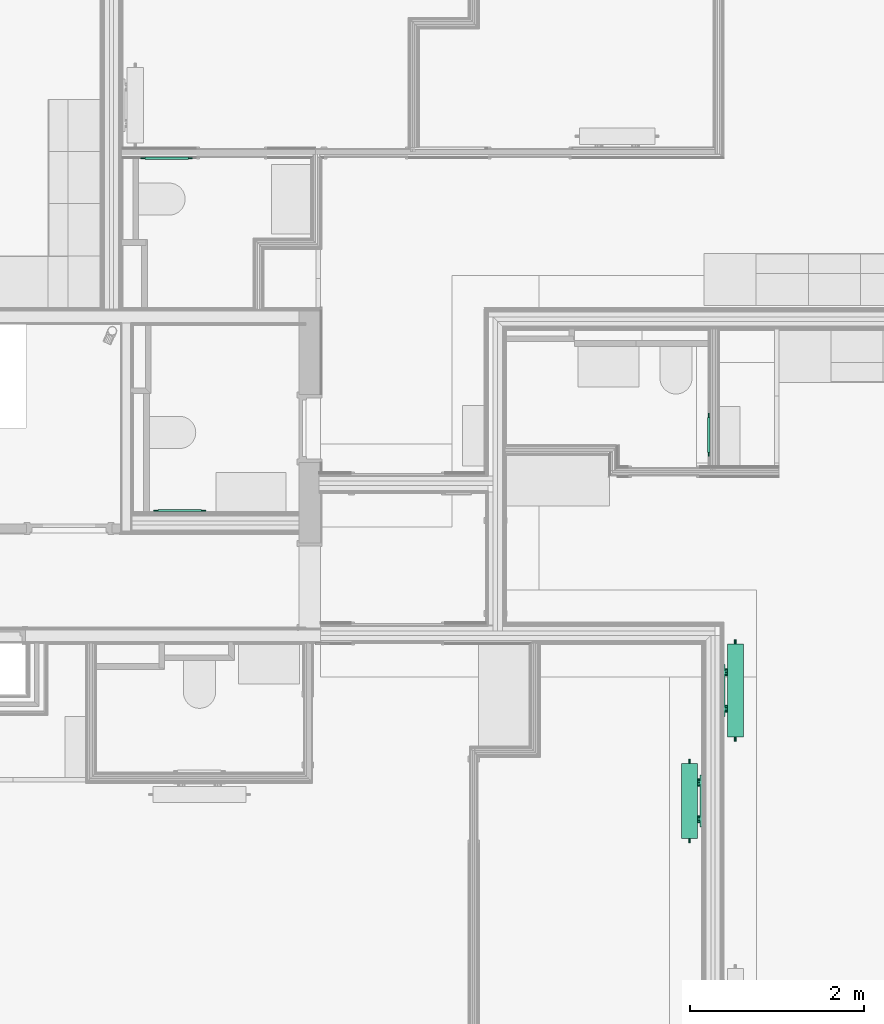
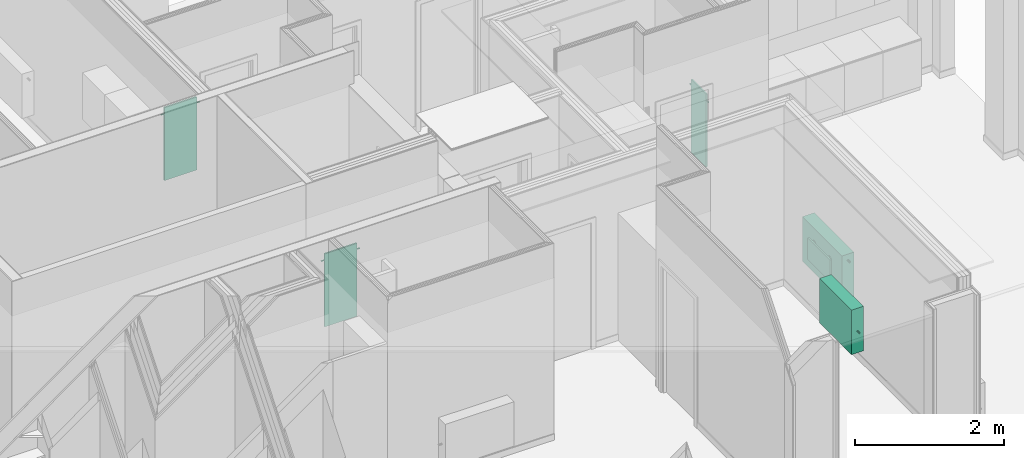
# One storey, part 60 of 65: 5 flow terminals.
"""IFC2X3 building model written with IfcOpenShell, lengths in metres."""

from ifc_helpers import new_model, entity, si_unit, converted_unit, derived_unit, money_unit, direction, frame, origin_with_axes, place, context, subcontext, project, spatial, open_shell, surface_model, material, type_object, element, save


model = new_model("IFC2X3")

# Units and contexts
model_context = context("Model", 3, precision=1e-05, world=origin_with_axes(), true_north=direction((0.0, 1.0)))
body_context = subcontext(model_context, "Body", "Model", "MODEL_VIEW", scale=1.0)
ifc_project = project(units=[si_unit("LENGTHUNIT", "METRE"), si_unit("AREAUNIT", "SQUARE_METRE"), si_unit("VOLUMEUNIT", "CUBIC_METRE"), si_unit("ABSORBEDDOSEUNIT", "GRAY"), si_unit("AMOUNTOFSUBSTANCEUNIT", "MOLE"), si_unit("DOSEEQUIVALENTUNIT", "SIEVERT"), si_unit("ELECTRICCAPACITANCEUNIT", "FARAD"), si_unit("ELECTRICCHARGEUNIT", "COULOMB"), si_unit("ELECTRICCONDUCTANCEUNIT", "SIEMENS"), si_unit("ELECTRICCURRENTUNIT", "AMPERE"), si_unit("ELECTRICRESISTANCEUNIT", "OHM"), si_unit("ELECTRICVOLTAGEUNIT", "VOLT"), si_unit("ENERGYUNIT", "JOULE"), si_unit("FORCEUNIT", "NEWTON"), si_unit("FREQUENCYUNIT", "HERTZ"), si_unit("ILLUMINANCEUNIT", "LUX"), si_unit("INDUCTANCEUNIT", "HENRY"), si_unit("LUMINOUSFLUXUNIT", "LUMEN"), si_unit("LUMINOUSINTENSITYUNIT", "CANDELA"), si_unit("MAGNETICFLUXDENSITYUNIT", "TESLA"), si_unit("MAGNETICFLUXUNIT", "WEBER"), si_unit("MASSUNIT", "GRAM"), converted_unit("PLANEANGLEUNIT", "degree", entity("IfcReal", 0.0174532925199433), si_unit("PLANEANGLEUNIT", "RADIAN"), dimensions=[0, 0, 0, 0, 0, 0, 0]), si_unit("POWERUNIT", "WATT"), si_unit("PRESSUREUNIT", "PASCAL"), si_unit("RADIOACTIVITYUNIT", "BECQUEREL"), si_unit("SOLIDANGLEUNIT", "STERADIAN"), si_unit("THERMODYNAMICTEMPERATUREUNIT", "KELVIN"), si_unit("TIMEUNIT", "SECOND"), derived_unit("ACCELERATIONUNIT", [(si_unit("LENGTHUNIT", "METRE"), 1), (si_unit("TIMEUNIT", "SECOND"), -2)]), derived_unit("ANGULARVELOCITYUNIT", [(converted_unit("PLANEANGLEUNIT", "degree", entity("IfcReal", 0.0174532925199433), si_unit("PLANEANGLEUNIT", "RADIAN"), dimensions=[0, 0, 0, 0, 0, 0, 0]), 1), (si_unit("TIMEUNIT", "SECOND"), -1)]), derived_unit("CURVATUREUNIT", [(converted_unit("PLANEANGLEUNIT", "degree", entity("IfcReal", 0.0174532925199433), si_unit("PLANEANGLEUNIT", "RADIAN"), dimensions=[0, 0, 0, 0, 0, 0, 0]), 1), (si_unit("LENGTHUNIT", "METRE"), -1)]), derived_unit("DYNAMICVISCOSITYUNIT", [(si_unit("PRESSUREUNIT", "PASCAL"), 1), (si_unit("TIMEUNIT", "SECOND"), 1)]), derived_unit("HEATFLUXDENSITYUNIT", [(si_unit("POWERUNIT", "WATT"), 1), (si_unit("LENGTHUNIT", "METRE"), -2)]), derived_unit("HEATINGVALUEUNIT", [(si_unit("ENERGYUNIT", "JOULE"), 1), (si_unit("MASSUNIT", "GRAM"), -1)]), derived_unit("INTEGERCOUNTRATEUNIT", [(si_unit("TIMEUNIT", "SECOND"), -1)]), derived_unit("IONCONCENTRATIONUNIT", [(si_unit("MASSUNIT", "GRAM"), 1), (si_unit("VOLUMEUNIT", "CUBIC_METRE"), -1)]), derived_unit("ISOTHERMALMOISTURECAPACITYUNIT", [(si_unit("VOLUMEUNIT", "CUBIC_METRE"), 1), (si_unit("MASSUNIT", "GRAM"), -1)]), derived_unit("KINEMATICVISCOSITYUNIT", [(si_unit("AREAUNIT", "SQUARE_METRE"), 1), (si_unit("TIMEUNIT", "SECOND"), -1)]), derived_unit("LINEARFORCEUNIT", [(si_unit("FORCEUNIT", "NEWTON"), 1), (si_unit("LENGTHUNIT", "METRE"), -1)]), derived_unit("LINEARMOMENTUNIT", [(si_unit("FORCEUNIT", "NEWTON"), 1), (si_unit("LENGTHUNIT", "METRE"), -1)]), derived_unit("LINEARSTIFFNESSUNIT", [(si_unit("FORCEUNIT", "NEWTON"), 1), (si_unit("LENGTHUNIT", "METRE"), -1)]), derived_unit("LINEARVELOCITYUNIT", [(si_unit("LENGTHUNIT", "METRE"), 1), (si_unit("TIMEUNIT", "SECOND"), -1)]), derived_unit("LUMINOUSINTENSITYDISTRIBUTIONUNIT", [(si_unit("LUMINOUSINTENSITYUNIT", "CANDELA"), 1), (si_unit("LUMINOUSFLUXUNIT", "LUMEN"), -1)]), derived_unit("MASSDENSITYUNIT", [(si_unit("MASSUNIT", "GRAM"), 1), (si_unit("VOLUMEUNIT", "CUBIC_METRE"), -1)]), derived_unit("MASSFLOWRATEUNIT", [(si_unit("MASSUNIT", "GRAM"), 1), (si_unit("TIMEUNIT", "SECOND"), -1)]), derived_unit("MASSPERLENGTHUNIT", [(si_unit("MASSUNIT", "GRAM"), 1), (si_unit("LENGTHUNIT", "METRE"), -1)]), derived_unit("MODULUSOFELASTICITYUNIT", [(si_unit("FORCEUNIT", "NEWTON"), 1), (si_unit("AREAUNIT", "SQUARE_METRE"), -1)]), derived_unit("MODULUSOFLINEARSUBGRADEREACTIONUNIT", [(si_unit("FORCEUNIT", "NEWTON"), 1), (si_unit("LENGTHUNIT", "METRE"), -2)]), derived_unit("MODULUSOFROTATIONALSUBGRADEREACTIONUNIT", [(si_unit("FORCEUNIT", "NEWTON"), 1), (si_unit("LENGTHUNIT", "METRE"), 1)]), derived_unit("MODULUSOFSUBGRADEREACTIONUNIT", [(si_unit("FORCEUNIT", "NEWTON"), 1), (si_unit("VOLUMEUNIT", "CUBIC_METRE"), -1)]), derived_unit("MOISTUREDIFFUSIVITYUNIT", [(si_unit("VOLUMEUNIT", "CUBIC_METRE"), 1), (si_unit("TIMEUNIT", "SECOND"), -1)]), derived_unit("MOLECULARWEIGHTUNIT", [(si_unit("MASSUNIT", "GRAM"), 1), (si_unit("AMOUNTOFSUBSTANCEUNIT", "MOLE"), -1)]), derived_unit("PLANARFORCEUNIT", [(si_unit("FORCEUNIT", "NEWTON"), 1), (si_unit("LENGTHUNIT", "METRE"), -2)]), derived_unit("ROTATIONALFREQUENCYUNIT", [(si_unit("TIMEUNIT", "SECOND"), -1)]), derived_unit("ROTATIONALMASSUNIT", [(si_unit("MASSUNIT", "GRAM"), 1), (si_unit("LENGTHUNIT", "METRE"), 2)]), derived_unit("ROTATIONALSTIFFNESSUNIT", [(si_unit("FORCEUNIT", "NEWTON"), 1), (si_unit("LENGTHUNIT", "METRE"), 1), (converted_unit("PLANEANGLEUNIT", "degree", entity("IfcReal", 0.0174532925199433), si_unit("PLANEANGLEUNIT", "RADIAN"), dimensions=[0, 0, 0, 0, 0, 0, 0]), -1)]), derived_unit("SECTIONAREAINTEGRALUNIT", [(si_unit("LENGTHUNIT", "METRE"), 5)]), derived_unit("SECTIONMODULUSUNIT", [(si_unit("LENGTHUNIT", "METRE"), 3)]), derived_unit("SHEARMODULUSUNIT", [(si_unit("FORCEUNIT", "NEWTON"), 1), (si_unit("AREAUNIT", "SQUARE_METRE"), -1)]), derived_unit("SOUNDPOWERUNIT", [(si_unit("ENERGYUNIT", "JOULE"), 1), (si_unit("TIMEUNIT", "SECOND"), -1)]), derived_unit("SPECIFICHEATCAPACITYUNIT", [(si_unit("FORCEUNIT", "NEWTON"), 1), (si_unit("MASSUNIT", "GRAM"), -1), (si_unit("THERMODYNAMICTEMPERATUREUNIT", "KELVIN"), -1)]), derived_unit("TEMPERATUREGRADIENTUNIT", [(si_unit("THERMODYNAMICTEMPERATUREUNIT", "KELVIN"), 1), (si_unit("LENGTHUNIT", "METRE"), -1)]), derived_unit("THERMALADMITTANCEUNIT", [(si_unit("POWERUNIT", "WATT"), 1), (si_unit("AREAUNIT", "SQUARE_METRE"), -1), (si_unit("THERMODYNAMICTEMPERATUREUNIT", "KELVIN"), -1)]), derived_unit("THERMALCONDUCTANCEUNIT", [(si_unit("POWERUNIT", "WATT"), 1), (si_unit("LENGTHUNIT", "METRE"), -1), (si_unit("THERMODYNAMICTEMPERATUREUNIT", "KELVIN"), -1)]), derived_unit("THERMALEXPANSIONCOEFFICIENTUNIT", [(si_unit("THERMODYNAMICTEMPERATUREUNIT", "KELVIN"), -1)]), derived_unit("THERMALRESISTANCEUNIT", [(si_unit("AREAUNIT", "SQUARE_METRE"), 1), (si_unit("POWERUNIT", "WATT"), -1)]), derived_unit("THERMALTRANSMITTANCEUNIT", [(si_unit("POWERUNIT", "WATT"), 1), (si_unit("AREAUNIT", "SQUARE_METRE"), -1), (si_unit("THERMODYNAMICTEMPERATUREUNIT", "KELVIN"), -1)]), derived_unit("TORQUEUNIT", [(si_unit("FORCEUNIT", "NEWTON"), 1), (si_unit("LENGTHUNIT", "METRE"), 1)]), derived_unit("VAPORPERMEABILITYUNIT", [(si_unit("MASSUNIT", "GRAM"), 1), (si_unit("TIMEUNIT", "SECOND"), -1)]), derived_unit("VOLUMETRICFLOWRATEUNIT", [(si_unit("VOLUMEUNIT", "CUBIC_METRE"), 1), (si_unit("TIMEUNIT", "SECOND"), -1)]), derived_unit("WARPINGCONSTANTUNIT", [(si_unit("LENGTHUNIT", "METRE"), 6)]), derived_unit("WARPINGMOMENTUNIT", [(si_unit("FORCEUNIT", "NEWTON"), 1), (si_unit("LENGTHUNIT", "METRE"), 2)]), money_unit("GBP")], contexts=[model_context])

# Site, building, storey, space
site_placement = place(None, origin_with_axes())
site = spatial("IfcSite", under=ifc_project, at=site_placement, Name="Site", CompositionType="ELEMENT")
building_placement = place(site_placement, origin_with_axes())
building = spatial("IfcBuilding", under=site, at=building_placement, Name="Building01", CompositionType="ELEMENT")
storey_placement = place(building_placement, frame((0.0, 0.0, 8.64), z_axis=(0.0, 0.0, 1.0), x_axis=(1.0, 0.0, 0.0)))
storey = spatial("IfcBuildingStorey", under=building, at=storey_placement, Name="2F", CompositionType="ELEMENT", Elevation=8.64)
space_1_placement = place(storey_placement, frame((20.51, 3.685, 0.017975), z_axis=(0.0, 0.0, 1.0), x_axis=(-1.0, 0.0, 0.0)))
space_1 = spatial("IfcSpace", under=storey, at=space_1_placement, Name="bed", CompositionType="ELEMENT", InteriorOrExteriorSpace="NOTDEFINED")

# Flow terminal
ifc_material = material(Name="M_BSUK_Ventilation")
space_heater_type_1 = type_object("IfcSpaceHeaterType", Name="M-BmvRadiatorpanel-Panel", PredefinedType="NOTDEFINED")
flow_terminal_1_placement = place(storey_placement, frame((22.24475, 2.7335, 0.68), z_axis=(0.0, 0.0, 1.0), x_axis=(0.0, -1.0, 0.0)))
element("IfcFlowTerminal", 1, at=flow_terminal_1_placement, inside=space_1, type_object=space_heater_type_1, material=ifc_material, Name="M-BmvRadiatorpanel-Panel", ObjectType="M-BmvRadiatorpanel-Panel", context=body_context, shape_type="SurfaceModel", body=[
    surface_model("IfcShellBasedSurfaceModel", [(-0.865, -0.0925, 0.365), (-0.865, 0.0925, 0.365), (0.0, 0.0925, 0.365), (0.0, -0.0925, 0.365), (-0.865, -0.0925, -0.365), (-0.865, 0.0925, -0.365), (0.0, -0.0925, -0.365), (0.0, 0.0925, -0.365), (-0.1325, 0.12025, 0.175), (-0.7325, 0.12025, 0.175), (-0.7325, 0.14525, 0.175), (-0.1325, 0.14525, 0.175), (-0.7325, 0.14525, -0.175), (-0.1325, 0.14525, -0.175), (-0.7325, 0.12025, -0.175), (-0.1325, 0.12025, -0.175), (-0.2225, 0.0925, 0.0775), (-0.2225, 0.12025, 0.0775), (-0.205279, 0.12025, 0.080925), (-0.205279, 0.0925, 0.080925), (-0.19068, 0.12025, 0.09068), (-0.19068, 0.0925, 0.09068), (-0.180925, 0.12025, 0.105279), (-0.180925, 0.0925, 0.105279), (-0.1775, 0.12025, 0.1225), (-0.1775, 0.0925, 0.1225), (-0.180925, 0.12025, 0.139721), (-0.180925, 0.0925, 0.139721), (-0.19068, 0.12025, 0.15432), (-0.19068, 0.0925, 0.15432), (-0.205279, 0.12025, 0.164075), (-0.205279, 0.0925, 0.164075), (-0.2225, 0.12025, 0.1675), (-0.2225, 0.0925, 0.1675), (-0.239721, 0.12025, 0.164075), (-0.239721, 0.0925, 0.164075), (-0.25432, 0.12025, 0.15432), (-0.25432, 0.0925, 0.15432), (-0.264075, 0.12025, 0.139721), (-0.264075, 0.0925, 0.139721), (-0.2675, 0.12025, 0.1225), (-0.2675, 0.0925, 0.1225), (-0.264075, 0.12025, 0.105279), (-0.264075, 0.0925, 0.105279), (-0.25432, 0.12025, 0.09068), (-0.25432, 0.0925, 0.09068), (-0.239721, 0.12025, 0.080925), (-0.239721, 0.0925, 0.080925), (-0.6425, 0.0925, 0.0775), (-0.6425, 0.12025, 0.0775), (-0.625279, 0.12025, 0.080925), (-0.625279, 0.0925, 0.080925), (-0.61068, 0.12025, 0.09068), (-0.61068, 0.0925, 0.09068), (-0.600925, 0.12025, 0.105279), (-0.600925, 0.0925, 0.105279), (-0.5975, 0.12025, 0.1225), (-0.5975, 0.0925, 0.1225), (-0.600925, 0.12025, 0.139721), (-0.600925, 0.0925, 0.139721), (-0.61068, 0.12025, 0.15432), (-0.61068, 0.0925, 0.15432), (-0.625279, 0.12025, 0.164075), (-0.625279, 0.0925, 0.164075), (-0.6425, 0.12025, 0.1675), (-0.6425, 0.0925, 0.1675), (-0.659721, 0.12025, 0.164075), (-0.659721, 0.0925, 0.164075), (-0.67432, 0.12025, 0.15432), (-0.67432, 0.0925, 0.15432), (-0.684075, 0.12025, 0.139721), (-0.684075, 0.0925, 0.139721), (-0.6875, 0.12025, 0.1225), (-0.6875, 0.0925, 0.1225), (-0.684075, 0.12025, 0.105279), (-0.684075, 0.0925, 0.105279), (-0.67432, 0.12025, 0.09068), (-0.67432, 0.0925, 0.09068), (-0.659721, 0.12025, 0.080925), (-0.659721, 0.0925, 0.080925), (0.05, 0.0, -0.0225), (0.0, 0.0, -0.0225), (0.0, 0.004784, -0.021548), (0.05, 0.004784, -0.021548), (0.0, 0.008839, -0.018839), (0.05, 0.008839, -0.018839), (0.0, 0.011548, -0.014784), (0.05, 0.011548, -0.014784), (0.0, 0.0125, -0.01), (0.05, 0.0125, -0.01), (0.0, 0.011548, -0.005216), (0.05, 0.011548, -0.005216), (0.0, 0.008839, -0.001161), (0.05, 0.008839, -0.001161), (0.0, 0.004784, 0.001548), (0.05, 0.004784, 0.001548), (0.0, 0.0, 0.0025), (0.05, 0.0, 0.0025), (0.0, -0.004784, 0.001548), (0.05, -0.004784, 0.001548), (0.0, -0.008839, -0.001161), (0.05, -0.008839, -0.001161), (0.0, -0.011548, -0.005216), (0.05, -0.011548, -0.005216), (0.0, -0.0125, -0.01), (0.05, -0.0125, -0.01), (0.0, -0.011548, -0.014784), (0.05, -0.011548, -0.014784), (0.0, -0.008839, -0.018839), (0.05, -0.008839, -0.018839), (0.0, -0.004784, -0.021548), (0.05, -0.004784, -0.021548), (-0.915, 0.0, 0.2525), (-0.865, 0.0, 0.2525), (-0.865, -0.004784, 0.253452), (-0.915, -0.004784, 0.253452), (-0.865, -0.008839, 0.256161), (-0.915, -0.008839, 0.256161), (-0.865, -0.011548, 0.260216), (-0.915, -0.011548, 0.260216), (-0.865, -0.0125, 0.265), (-0.915, -0.0125, 0.265), (-0.865, -0.011548, 0.269784), (-0.915, -0.011548, 0.269784), (-0.865, -0.008839, 0.273839), (-0.915, -0.008839, 0.273839), (-0.865, -0.004784, 0.276548), (-0.915, -0.004784, 0.276548), (-0.865, 0.0, 0.2775), (-0.915, 0.0, 0.2775), (-0.865, 0.004784, 0.276548), (-0.915, 0.004784, 0.276548), (-0.865, 0.008839, 0.273839), (-0.915, 0.008839, 0.273839), (-0.865, 0.011548, 0.269784), (-0.915, 0.011548, 0.269784), (-0.865, 0.0125, 0.265), (-0.915, 0.0125, 0.265), (-0.865, 0.011548, 0.260216), (-0.915, 0.011548, 0.260216), (-0.865, 0.008839, 0.256161), (-0.915, 0.008839, 0.256161), (-0.865, 0.004784, 0.253452), (-0.915, 0.004784, 0.253452)], [open_shell([[[0, 1, 2, 3]], [[4, 5, 1, 0]], [[6, 7, 5, 4]], [[3, 2, 7, 6]], [[1, 5, 7, 2]], [[3, 6, 4, 0]], [[8, 9, 10, 11]], [[11, 10, 12, 13]], [[13, 12, 14, 15]], [[15, 14, 9, 8]], [[9, 14, 12, 10]], [[11, 13, 15, 8]], [[16, 17, 18, 19]], [[19, 18, 20, 21]], [[21, 20, 22, 23]], [[23, 22, 24, 25]], [[25, 24, 26, 27]], [[27, 26, 28, 29]], [[29, 28, 30, 31]], [[31, 30, 32, 33]], [[33, 32, 34, 35]], [[35, 34, 36, 37]], [[37, 36, 38, 39]], [[39, 38, 40, 41]], [[41, 40, 42, 43]], [[43, 42, 44, 45]], [[45, 44, 46, 47]], [[47, 46, 17, 16]], [[48, 49, 50, 51]], [[51, 50, 52, 53]], [[53, 52, 54, 55]], [[55, 54, 56, 57]], [[57, 56, 58, 59]], [[59, 58, 60, 61]], [[61, 60, 62, 63]], [[63, 62, 64, 65]], [[65, 64, 66, 67]], [[67, 66, 68, 69]], [[69, 68, 70, 71]], [[71, 70, 72, 73]], [[73, 72, 74, 75]], [[75, 74, 76, 77]], [[77, 76, 78, 79]], [[79, 78, 49, 48]], [[80, 81, 82, 83]], [[83, 82, 84, 85]], [[85, 84, 86, 87]], [[87, 86, 88, 89]], [[89, 88, 90, 91]], [[91, 90, 92, 93]], [[93, 92, 94, 95]], [[95, 94, 96, 97]], [[97, 96, 98, 99]], [[99, 98, 100, 101]], [[101, 100, 102, 103]], [[103, 102, 104, 105]], [[105, 104, 106, 107]], [[107, 106, 108, 109]], [[109, 108, 110, 111]], [[111, 110, 81, 80]], [[112, 113, 114, 115]], [[115, 114, 116, 117]], [[117, 116, 118, 119]], [[119, 118, 120, 121]], [[121, 120, 122, 123]], [[123, 122, 124, 125]], [[125, 124, 126, 127]], [[127, 126, 128, 129]], [[129, 128, 130, 131]], [[131, 130, 132, 133]], [[133, 132, 134, 135]], [[135, 134, 136, 137]], [[137, 136, 138, 139]], [[139, 138, 140, 141]], [[141, 140, 142, 143]], [[143, 142, 113, 112]]])]),
])

# Space
space_2_placement = place(storey_placement, frame((20.122661, 7.155, 0.017975), z_axis=(0.0, 0.0, 1.0), x_axis=(0.0, -1.0, 0.0)))
space_2 = spatial("IfcSpace", under=storey, at=space_2_placement, Name="studio", CompositionType="ELEMENT", InteriorOrExteriorSpace="NOTDEFINED")

# Flow terminal
flow_terminal_2_placement = place(storey_placement, frame((22.77025, 4.9695, 0.68), z_axis=(0.0, 0.0, 1.0), x_axis=(0.0, 1.0, 0.0)))
element("IfcFlowTerminal", 2, at=flow_terminal_2_placement, inside=space_2, type_object=space_heater_type_1, material=ifc_material, Name="M-BmvRadiatorpanel-Panel", ObjectType="M-BmvRadiatorpanel-Panel", context=body_context, shape_type="SurfaceModel", body=[
    surface_model("IfcShellBasedSurfaceModel", [(-1.069, -0.0925, 0.365), (-1.069, 0.0925, 0.365), (0.0, 0.0925, 0.365), (0.0, -0.0925, 0.365), (-1.069, -0.0925, -0.365), (-1.069, 0.0925, -0.365), (0.0, -0.0925, -0.365), (0.0, 0.0925, -0.365), (-0.2345, 0.12025, 0.175), (-0.8345, 0.12025, 0.175), (-0.8345, 0.14525, 0.175), (-0.2345, 0.14525, 0.175), (-0.8345, 0.14525, -0.175), (-0.2345, 0.14525, -0.175), (-0.8345, 0.12025, -0.175), (-0.2345, 0.12025, -0.175), (-0.3245, 0.0925, 0.0775), (-0.3245, 0.12025, 0.0775), (-0.307279, 0.12025, 0.080925), (-0.307279, 0.0925, 0.080925), (-0.29268, 0.12025, 0.09068), (-0.29268, 0.0925, 0.09068), (-0.282925, 0.12025, 0.105279), (-0.282925, 0.0925, 0.105279), (-0.2795, 0.12025, 0.1225), (-0.2795, 0.0925, 0.1225), (-0.282925, 0.12025, 0.139721), (-0.282925, 0.0925, 0.139721), (-0.29268, 0.12025, 0.15432), (-0.29268, 0.0925, 0.15432), (-0.307279, 0.12025, 0.164075), (-0.307279, 0.0925, 0.164075), (-0.3245, 0.12025, 0.1675), (-0.3245, 0.0925, 0.1675), (-0.341721, 0.12025, 0.164075), (-0.341721, 0.0925, 0.164075), (-0.35632, 0.12025, 0.15432), (-0.35632, 0.0925, 0.15432), (-0.366075, 0.12025, 0.139721), (-0.366075, 0.0925, 0.139721), (-0.3695, 0.12025, 0.1225), (-0.3695, 0.0925, 0.1225), (-0.366075, 0.12025, 0.105279), (-0.366075, 0.0925, 0.105279), (-0.35632, 0.12025, 0.09068), (-0.35632, 0.0925, 0.09068), (-0.341721, 0.12025, 0.080925), (-0.341721, 0.0925, 0.080925), (-0.7445, 0.0925, 0.0775), (-0.7445, 0.12025, 0.0775), (-0.727279, 0.12025, 0.080925), (-0.727279, 0.0925, 0.080925), (-0.71268, 0.12025, 0.09068), (-0.71268, 0.0925, 0.09068), (-0.702925, 0.12025, 0.105279), (-0.702925, 0.0925, 0.105279), (-0.6995, 0.12025, 0.1225), (-0.6995, 0.0925, 0.1225), (-0.702925, 0.12025, 0.139721), (-0.702925, 0.0925, 0.139721), (-0.71268, 0.12025, 0.15432), (-0.71268, 0.0925, 0.15432), (-0.727279, 0.12025, 0.164075), (-0.727279, 0.0925, 0.164075), (-0.7445, 0.12025, 0.1675), (-0.7445, 0.0925, 0.1675), (-0.761721, 0.12025, 0.164075), (-0.761721, 0.0925, 0.164075), (-0.77632, 0.12025, 0.15432), (-0.77632, 0.0925, 0.15432), (-0.786075, 0.12025, 0.139721), (-0.786075, 0.0925, 0.139721), (-0.7895, 0.12025, 0.1225), (-0.7895, 0.0925, 0.1225), (-0.786075, 0.12025, 0.105279), (-0.786075, 0.0925, 0.105279), (-0.77632, 0.12025, 0.09068), (-0.77632, 0.0925, 0.09068), (-0.761721, 0.12025, 0.080925), (-0.761721, 0.0925, 0.080925), (0.05, 0.0, -0.0225), (0.0, 0.0, -0.0225), (0.0, 0.004784, -0.021548), (0.05, 0.004784, -0.021548), (0.0, 0.008839, -0.018839), (0.05, 0.008839, -0.018839), (0.0, 0.011548, -0.014784), (0.05, 0.011548, -0.014784), (0.0, 0.0125, -0.01), (0.05, 0.0125, -0.01), (0.0, 0.011548, -0.005216), (0.05, 0.011548, -0.005216), (0.0, 0.008839, -0.001161), (0.05, 0.008839, -0.001161), (0.0, 0.004784, 0.001548), (0.05, 0.004784, 0.001548), (0.0, 0.0, 0.0025), (0.05, 0.0, 0.0025), (0.0, -0.004784, 0.001548), (0.05, -0.004784, 0.001548), (0.0, -0.008839, -0.001161), (0.05, -0.008839, -0.001161), (0.0, -0.011548, -0.005216), (0.05, -0.011548, -0.005216), (0.0, -0.0125, -0.01), (0.05, -0.0125, -0.01), (0.0, -0.011548, -0.014784), (0.05, -0.011548, -0.014784), (0.0, -0.008839, -0.018839), (0.05, -0.008839, -0.018839), (0.0, -0.004784, -0.021548), (0.05, -0.004784, -0.021548), (-1.119, 0.0, 0.2525), (-1.069, 0.0, 0.2525), (-1.069, -0.004784, 0.253452), (-1.119, -0.004784, 0.253452), (-1.069, -0.008839, 0.256161), (-1.119, -0.008839, 0.256161), (-1.069, -0.011548, 0.260216), (-1.119, -0.011548, 0.260216), (-1.069, -0.0125, 0.265), (-1.119, -0.0125, 0.265), (-1.069, -0.011548, 0.269784), (-1.119, -0.011548, 0.269784), (-1.069, -0.008839, 0.273839), (-1.119, -0.008839, 0.273839), (-1.069, -0.004784, 0.276548), (-1.119, -0.004784, 0.276548), (-1.069, 0.0, 0.2775), (-1.119, 0.0, 0.2775), (-1.069, 0.004784, 0.276548), (-1.119, 0.004784, 0.276548), (-1.069, 0.008839, 0.273839), (-1.119, 0.008839, 0.273839), (-1.069, 0.011548, 0.269784), (-1.119, 0.011548, 0.269784), (-1.069, 0.0125, 0.265), (-1.119, 0.0125, 0.265), (-1.069, 0.011548, 0.260216), (-1.119, 0.011548, 0.260216), (-1.069, 0.008839, 0.256161), (-1.119, 0.008839, 0.256161), (-1.069, 0.004784, 0.253452), (-1.119, 0.004784, 0.253452)], [open_shell([[[0, 1, 2, 3]], [[4, 5, 1, 0]], [[6, 7, 5, 4]], [[3, 2, 7, 6]], [[1, 5, 7, 2]], [[3, 6, 4, 0]], [[8, 9, 10, 11]], [[11, 10, 12, 13]], [[13, 12, 14, 15]], [[15, 14, 9, 8]], [[9, 14, 12, 10]], [[11, 13, 15, 8]], [[16, 17, 18, 19]], [[19, 18, 20, 21]], [[21, 20, 22, 23]], [[23, 22, 24, 25]], [[25, 24, 26, 27]], [[27, 26, 28, 29]], [[29, 28, 30, 31]], [[31, 30, 32, 33]], [[33, 32, 34, 35]], [[35, 34, 36, 37]], [[37, 36, 38, 39]], [[39, 38, 40, 41]], [[41, 40, 42, 43]], [[43, 42, 44, 45]], [[45, 44, 46, 47]], [[47, 46, 17, 16]], [[48, 49, 50, 51]], [[51, 50, 52, 53]], [[53, 52, 54, 55]], [[55, 54, 56, 57]], [[57, 56, 58, 59]], [[59, 58, 60, 61]], [[61, 60, 62, 63]], [[63, 62, 64, 65]], [[65, 64, 66, 67]], [[67, 66, 68, 69]], [[69, 68, 70, 71]], [[71, 70, 72, 73]], [[73, 72, 74, 75]], [[75, 74, 76, 77]], [[77, 76, 78, 79]], [[79, 78, 49, 48]], [[80, 81, 82, 83]], [[83, 82, 84, 85]], [[85, 84, 86, 87]], [[87, 86, 88, 89]], [[89, 88, 90, 91]], [[91, 90, 92, 93]], [[93, 92, 94, 95]], [[95, 94, 96, 97]], [[97, 96, 98, 99]], [[99, 98, 100, 101]], [[101, 100, 102, 103]], [[103, 102, 104, 105]], [[105, 104, 106, 107]], [[107, 106, 108, 109]], [[109, 108, 110, 111]], [[111, 110, 81, 80]], [[112, 113, 114, 115]], [[115, 114, 116, 117]], [[117, 116, 118, 119]], [[119, 118, 120, 121]], [[121, 120, 122, 123]], [[123, 122, 124, 125]], [[125, 124, 126, 127]], [[127, 126, 128, 129]], [[129, 128, 130, 131]], [[131, 130, 132, 133]], [[133, 132, 134, 135]], [[135, 134, 136, 137]], [[137, 136, 138, 139]], [[139, 138, 140, 141]], [[141, 140, 142, 143]], [[143, 142, 113, 112]]])]),
])

# Space
space_3_placement = place(storey_placement, frame((20.122661, 7.25, 0.017975), z_axis=(0.0, 0.0, 1.0), x_axis=(1.0, 0.0, 0.0)))
space_3 = spatial("IfcSpace", under=storey, at=space_3_placement, Name="bath", CompositionType="ELEMENT", InteriorOrExteriorSpace="NOTDEFINED")

# Flow terminal
space_heater_type_2 = type_object("IfcSpaceHeaterType", Name="M-BmvRadiator-Column", PredefinedType="NOTDEFINED")
flow_terminal_3_placement = place(storey_placement, frame((22.464161, 7.175, 1.2), z_axis=(0.0, 0.0, 1.0), x_axis=(0.0, -1.0, 0.0)))
element("IfcFlowTerminal", 3, at=flow_terminal_3_placement, inside=space_3, type_object=space_heater_type_2, material=ifc_material, Name="M-BmvRadiator-Column", ObjectType="M-BmvRadiator-Column", context=body_context, shape_type="SurfaceModel", body=[
    surface_model("IfcShellBasedSurfaceModel", [(0.0, -0.0125, 0.6), (0.0, -0.0125, -0.6), (0.0, 0.0125, -0.6), (0.0, 0.0125, 0.6), (-0.4, -0.0125, 0.6), (-0.4, -0.0125, -0.6), (-0.4, 0.0125, -0.6), (-0.4, 0.0125, 0.6), (-0.08, 0.0125, 0.6), (-0.08, -0.0125, 0.6), (-0.08, -0.0125, -0.6), (-0.08, 0.0125, -0.6), (-0.16, 0.0125, 0.6), (-0.16, -0.0125, 0.6), (-0.16, -0.0125, -0.6), (-0.16, 0.0125, -0.6), (-0.24, 0.0125, 0.6), (-0.24, -0.0125, 0.6), (-0.24, -0.0125, -0.6), (-0.24, 0.0125, -0.6), (-0.32, 0.0125, 0.6), (-0.32, -0.0125, 0.6), (-0.32, -0.0125, -0.6), (-0.32, 0.0125, -0.6), (0.05, 0.0, 0.4825), (0.0, 0.0, 0.4825), (0.0, 0.003827, 0.483261), (0.05, 0.003827, 0.483261), (0.0, 0.007071, 0.485429), (0.05, 0.007071, 0.485429), (0.0, 0.009239, 0.488673), (0.05, 0.009239, 0.488673), (0.0, 0.01, 0.4925), (0.05, 0.01, 0.4925), (0.0, 0.009239, 0.496327), (0.05, 0.009239, 0.496327), (0.0, 0.007071, 0.499571), (0.05, 0.007071, 0.499571), (0.0, 0.003827, 0.501739), (0.05, 0.003827, 0.501739), (0.0, 0.0, 0.5025), (0.05, 0.0, 0.5025), (0.0, -0.003827, 0.501739), (0.05, -0.003827, 0.501739), (0.0, -0.007071, 0.499571), (0.05, -0.007071, 0.499571), (0.0, -0.009239, 0.496327), (0.05, -0.009239, 0.496327), (0.0, -0.01, 0.4925), (0.05, -0.01, 0.4925), (0.0, -0.009239, 0.488673), (0.05, -0.009239, 0.488673), (0.0, -0.007071, 0.485429), (0.05, -0.007071, 0.485429), (0.0, -0.003827, 0.483261), (0.05, -0.003827, 0.483261), (-0.45, 0.0, 0.4884), (-0.4, 0.0, 0.4884), (-0.4, -0.003827, 0.489161), (-0.45, -0.003827, 0.489161), (-0.4, -0.007071, 0.491329), (-0.45, -0.007071, 0.491329), (-0.4, -0.009239, 0.494573), (-0.45, -0.009239, 0.494573), (-0.4, -0.01, 0.4984), (-0.45, -0.01, 0.4984), (-0.4, -0.009239, 0.502227), (-0.45, -0.009239, 0.502227), (-0.4, -0.007071, 0.505471), (-0.45, -0.007071, 0.505471), (-0.4, -0.003827, 0.507639), (-0.45, -0.003827, 0.507639), (-0.4, 0.0, 0.5084), (-0.45, 0.0, 0.5084), (-0.4, 0.003827, 0.507639), (-0.45, 0.003827, 0.507639), (-0.4, 0.007071, 0.505471), (-0.45, 0.007071, 0.505471), (-0.4, 0.009239, 0.502227), (-0.45, 0.009239, 0.502227), (-0.4, 0.01, 0.4984), (-0.45, 0.01, 0.4984), (-0.4, 0.009239, 0.494573), (-0.45, 0.009239, 0.494573), (-0.4, 0.007071, 0.491329), (-0.45, 0.007071, 0.491329), (-0.4, 0.003827, 0.489161), (-0.45, 0.003827, 0.489161)], [open_shell([[[0, 1, 2, 3]], [[4, 5, 6, 7]], [[8, 3, 0, 9]], [[9, 0, 1, 10]], [[10, 1, 2, 11]], [[11, 2, 3, 8]], [[12, 8, 9, 13]], [[13, 9, 10, 14]], [[14, 10, 11, 15]], [[15, 11, 8, 12]], [[16, 12, 13, 17]], [[17, 13, 14, 18]], [[18, 14, 15, 19]], [[19, 15, 12, 16]], [[20, 16, 17, 21]], [[21, 17, 18, 22]], [[22, 18, 19, 23]], [[23, 19, 16, 20]], [[7, 20, 21, 4]], [[4, 21, 22, 5]], [[5, 22, 23, 6]], [[6, 23, 20, 7]], [[24, 25, 26, 27]], [[27, 26, 28, 29]], [[29, 28, 30, 31]], [[31, 30, 32, 33]], [[33, 32, 34, 35]], [[35, 34, 36, 37]], [[37, 36, 38, 39]], [[39, 38, 40, 41]], [[41, 40, 42, 43]], [[43, 42, 44, 45]], [[45, 44, 46, 47]], [[47, 46, 48, 49]], [[49, 48, 50, 51]], [[51, 50, 52, 53]], [[53, 52, 54, 55]], [[55, 54, 25, 24]], [[56, 57, 58, 59]], [[59, 58, 60, 61]], [[61, 60, 62, 63]], [[63, 62, 64, 65]], [[65, 64, 66, 67]], [[67, 66, 68, 69]], [[69, 68, 70, 71]], [[71, 70, 72, 73]], [[73, 72, 74, 75]], [[75, 74, 76, 77]], [[77, 76, 78, 79]], [[79, 78, 80, 81]], [[81, 80, 82, 83]], [[83, 82, 84, 85]], [[85, 84, 86, 87]], [[87, 86, 57, 56]]])]),
])

# Space
space_4_placement = place(storey_placement, frame((15.83, 8.65, 0.017975), z_axis=(0.0, 0.0, 1.0), x_axis=(0.0, -1.0, 0.0)))
space_4 = spatial("IfcSpace", under=storey, at=space_4_placement, Name="bath", CompositionType="ELEMENT", InteriorOrExteriorSpace="NOTDEFINED")

# Flow terminal
flow_terminal_4_placement = place(storey_placement, frame((16.129895, 6.504218, 1.2), z_axis=(0.0, 0.0, 1.0), x_axis=(-1.0, 0.0, 0.0)))
element("IfcFlowTerminal", 4, at=flow_terminal_4_placement, inside=space_4, type_object=space_heater_type_2, material=ifc_material, Name="M-BmvRadiator-Column", ObjectType="M-BmvRadiator-Column", context=body_context, shape_type="SurfaceModel", body=[
    surface_model("IfcShellBasedSurfaceModel", [(0.0, -0.0125, 0.6), (0.0, -0.0125, -0.6), (0.0, 0.0125, -0.6), (0.0, 0.0125, 0.6), (-0.5, -0.0125, 0.6), (-0.5, -0.0125, -0.6), (-0.5, 0.0125, -0.6), (-0.5, 0.0125, 0.6), (-0.1, 0.0125, 0.6), (-0.1, -0.0125, 0.6), (-0.1, -0.0125, -0.6), (-0.1, 0.0125, -0.6), (-0.2, 0.0125, 0.6), (-0.2, -0.0125, 0.6), (-0.2, -0.0125, -0.6), (-0.2, 0.0125, -0.6), (-0.3, 0.0125, 0.6), (-0.3, -0.0125, 0.6), (-0.3, -0.0125, -0.6), (-0.3, 0.0125, -0.6), (-0.4, 0.0125, 0.6), (-0.4, -0.0125, 0.6), (-0.4, -0.0125, -0.6), (-0.4, 0.0125, -0.6), (0.05, 0.0, 0.4825), (0.0, 0.0, 0.4825), (0.0, 0.003827, 0.483261), (0.05, 0.003827, 0.483261), (0.0, 0.007071, 0.485429), (0.05, 0.007071, 0.485429), (0.0, 0.009239, 0.488673), (0.05, 0.009239, 0.488673), (0.0, 0.01, 0.4925), (0.05, 0.01, 0.4925), (0.0, 0.009239, 0.496327), (0.05, 0.009239, 0.496327), (0.0, 0.007071, 0.499571), (0.05, 0.007071, 0.499571), (0.0, 0.003827, 0.501739), (0.05, 0.003827, 0.501739), (0.0, 0.0, 0.5025), (0.05, 0.0, 0.5025), (0.0, -0.003827, 0.501739), (0.05, -0.003827, 0.501739), (0.0, -0.007071, 0.499571), (0.05, -0.007071, 0.499571), (0.0, -0.009239, 0.496327), (0.05, -0.009239, 0.496327), (0.0, -0.01, 0.4925), (0.05, -0.01, 0.4925), (0.0, -0.009239, 0.488673), (0.05, -0.009239, 0.488673), (0.0, -0.007071, 0.485429), (0.05, -0.007071, 0.485429), (0.0, -0.003827, 0.483261), (0.05, -0.003827, 0.483261), (-0.55, 0.0, 0.4884), (-0.5, 0.0, 0.4884), (-0.5, -0.003827, 0.489161), (-0.55, -0.003827, 0.489161), (-0.5, -0.007071, 0.491329), (-0.55, -0.007071, 0.491329), (-0.5, -0.009239, 0.494573), (-0.55, -0.009239, 0.494573), (-0.5, -0.01, 0.4984), (-0.55, -0.01, 0.4984), (-0.5, -0.009239, 0.502227), (-0.55, -0.009239, 0.502227), (-0.5, -0.007071, 0.505471), (-0.55, -0.007071, 0.505471), (-0.5, -0.003827, 0.507639), (-0.55, -0.003827, 0.507639), (-0.5, 0.0, 0.5084), (-0.55, 0.0, 0.5084), (-0.5, 0.003827, 0.507639), (-0.55, 0.003827, 0.507639), (-0.5, 0.007071, 0.505471), (-0.55, 0.007071, 0.505471), (-0.5, 0.009239, 0.502227), (-0.55, 0.009239, 0.502227), (-0.5, 0.01, 0.4984), (-0.55, 0.01, 0.4984), (-0.5, 0.009239, 0.494573), (-0.55, 0.009239, 0.494573), (-0.5, 0.007071, 0.491329), (-0.55, 0.007071, 0.491329), (-0.5, 0.003827, 0.489161), (-0.55, 0.003827, 0.489161)], [open_shell([[[0, 1, 2, 3]], [[4, 5, 6, 7]], [[8, 3, 0, 9]], [[9, 0, 1, 10]], [[10, 1, 2, 11]], [[11, 2, 3, 8]], [[12, 8, 9, 13]], [[13, 9, 10, 14]], [[14, 10, 11, 15]], [[15, 11, 8, 12]], [[16, 12, 13, 17]], [[17, 13, 14, 18]], [[18, 14, 15, 19]], [[19, 15, 12, 16]], [[20, 16, 17, 21]], [[21, 17, 18, 22]], [[22, 18, 19, 23]], [[23, 19, 16, 20]], [[7, 20, 21, 4]], [[4, 21, 22, 5]], [[5, 22, 23, 6]], [[6, 23, 20, 7]], [[24, 25, 26, 27]], [[27, 26, 28, 29]], [[29, 28, 30, 31]], [[31, 30, 32, 33]], [[33, 32, 34, 35]], [[35, 34, 36, 37]], [[37, 36, 38, 39]], [[39, 38, 40, 41]], [[41, 40, 42, 43]], [[43, 42, 44, 45]], [[45, 44, 46, 47]], [[47, 46, 48, 49]], [[49, 48, 50, 51]], [[51, 50, 52, 53]], [[53, 52, 54, 55]], [[55, 54, 25, 24]], [[56, 57, 58, 59]], [[59, 58, 60, 61]], [[61, 60, 62, 63]], [[63, 62, 64, 65]], [[65, 64, 66, 67]], [[67, 66, 68, 69]], [[69, 68, 70, 71]], [[71, 70, 72, 73]], [[73, 72, 74, 75]], [[75, 74, 76, 77]], [[77, 76, 78, 79]], [[79, 78, 80, 81]], [[81, 80, 82, 83]], [[83, 82, 84, 85]], [[85, 84, 86, 87]], [[87, 86, 57, 56]]])]),
])

# Space
space_5_placement = place(storey_placement, frame((15.708132, 10.57, 0.017975), z_axis=(0.0, 0.0, 1.0), x_axis=(0.0, -1.0, 0.0)))
space_5 = spatial("IfcSpace", under=storey, at=space_5_placement, Name="ensuite", CompositionType="ELEMENT", InteriorOrExteriorSpace="NOTDEFINED")

# Flow terminal
flow_terminal_5_placement = place(storey_placement, frame((15.979895, 10.5575, 1.2), z_axis=(0.0, 0.0, 1.0), x_axis=(-1.0, 0.0, 0.0)))
element("IfcFlowTerminal", 5, at=flow_terminal_5_placement, inside=space_5, type_object=space_heater_type_2, material=ifc_material, Name="M-BmvRadiator-Column", ObjectType="M-BmvRadiator-Column", context=body_context, shape_type="SurfaceModel", body=[
    surface_model("IfcShellBasedSurfaceModel", [(0.0, -0.0125, 0.6), (0.0, -0.0125, -0.6), (0.0, 0.0125, -0.6), (0.0, 0.0125, 0.6), (-0.5, -0.0125, 0.6), (-0.5, -0.0125, -0.6), (-0.5, 0.0125, -0.6), (-0.5, 0.0125, 0.6), (-0.1, 0.0125, 0.6), (-0.1, -0.0125, 0.6), (-0.1, -0.0125, -0.6), (-0.1, 0.0125, -0.6), (-0.2, 0.0125, 0.6), (-0.2, -0.0125, 0.6), (-0.2, -0.0125, -0.6), (-0.2, 0.0125, -0.6), (-0.3, 0.0125, 0.6), (-0.3, -0.0125, 0.6), (-0.3, -0.0125, -0.6), (-0.3, 0.0125, -0.6), (-0.4, 0.0125, 0.6), (-0.4, -0.0125, 0.6), (-0.4, -0.0125, -0.6), (-0.4, 0.0125, -0.6), (0.05, 0.0, 0.4825), (0.0, 0.0, 0.4825), (0.0, 0.003827, 0.483261), (0.05, 0.003827, 0.483261), (0.0, 0.007071, 0.485429), (0.05, 0.007071, 0.485429), (0.0, 0.009239, 0.488673), (0.05, 0.009239, 0.488673), (0.0, 0.01, 0.4925), (0.05, 0.01, 0.4925), (0.0, 0.009239, 0.496327), (0.05, 0.009239, 0.496327), (0.0, 0.007071, 0.499571), (0.05, 0.007071, 0.499571), (0.0, 0.003827, 0.501739), (0.05, 0.003827, 0.501739), (0.0, 0.0, 0.5025), (0.05, 0.0, 0.5025), (0.0, -0.003827, 0.501739), (0.05, -0.003827, 0.501739), (0.0, -0.007071, 0.499571), (0.05, -0.007071, 0.499571), (0.0, -0.009239, 0.496327), (0.05, -0.009239, 0.496327), (0.0, -0.01, 0.4925), (0.05, -0.01, 0.4925), (0.0, -0.009239, 0.488673), (0.05, -0.009239, 0.488673), (0.0, -0.007071, 0.485429), (0.05, -0.007071, 0.485429), (0.0, -0.003827, 0.483261), (0.05, -0.003827, 0.483261), (-0.55, 0.0, 0.4884), (-0.5, 0.0, 0.4884), (-0.5, -0.003827, 0.489161), (-0.55, -0.003827, 0.489161), (-0.5, -0.007071, 0.491329), (-0.55, -0.007071, 0.491329), (-0.5, -0.009239, 0.494573), (-0.55, -0.009239, 0.494573), (-0.5, -0.01, 0.4984), (-0.55, -0.01, 0.4984), (-0.5, -0.009239, 0.502227), (-0.55, -0.009239, 0.502227), (-0.5, -0.007071, 0.505471), (-0.55, -0.007071, 0.505471), (-0.5, -0.003827, 0.507639), (-0.55, -0.003827, 0.507639), (-0.5, 0.0, 0.5084), (-0.55, 0.0, 0.5084), (-0.5, 0.003827, 0.507639), (-0.55, 0.003827, 0.507639), (-0.5, 0.007071, 0.505471), (-0.55, 0.007071, 0.505471), (-0.5, 0.009239, 0.502227), (-0.55, 0.009239, 0.502227), (-0.5, 0.01, 0.4984), (-0.55, 0.01, 0.4984), (-0.5, 0.009239, 0.494573), (-0.55, 0.009239, 0.494573), (-0.5, 0.007071, 0.491329), (-0.55, 0.007071, 0.491329), (-0.5, 0.003827, 0.489161), (-0.55, 0.003827, 0.489161)], [open_shell([[[0, 1, 2, 3]], [[4, 5, 6, 7]], [[8, 3, 0, 9]], [[9, 0, 1, 10]], [[10, 1, 2, 11]], [[11, 2, 3, 8]], [[12, 8, 9, 13]], [[13, 9, 10, 14]], [[14, 10, 11, 15]], [[15, 11, 8, 12]], [[16, 12, 13, 17]], [[17, 13, 14, 18]], [[18, 14, 15, 19]], [[19, 15, 12, 16]], [[20, 16, 17, 21]], [[21, 17, 18, 22]], [[22, 18, 19, 23]], [[23, 19, 16, 20]], [[7, 20, 21, 4]], [[4, 21, 22, 5]], [[5, 22, 23, 6]], [[6, 23, 20, 7]], [[24, 25, 26, 27]], [[27, 26, 28, 29]], [[29, 28, 30, 31]], [[31, 30, 32, 33]], [[33, 32, 34, 35]], [[35, 34, 36, 37]], [[37, 36, 38, 39]], [[39, 38, 40, 41]], [[41, 40, 42, 43]], [[43, 42, 44, 45]], [[45, 44, 46, 47]], [[47, 46, 48, 49]], [[49, 48, 50, 51]], [[51, 50, 52, 53]], [[53, 52, 54, 55]], [[55, 54, 25, 24]], [[56, 57, 58, 59]], [[59, 58, 60, 61]], [[61, 60, 62, 63]], [[63, 62, 64, 65]], [[65, 64, 66, 67]], [[67, 66, 68, 69]], [[69, 68, 70, 71]], [[71, 70, 72, 73]], [[73, 72, 74, 75]], [[75, 74, 76, 77]], [[77, 76, 78, 79]], [[79, 78, 80, 81]], [[81, 80, 82, 83]], [[83, 82, 84, 85]], [[85, 84, 86, 87]], [[87, 86, 57, 56]]])]),
])

save(model, "model.ifc")
